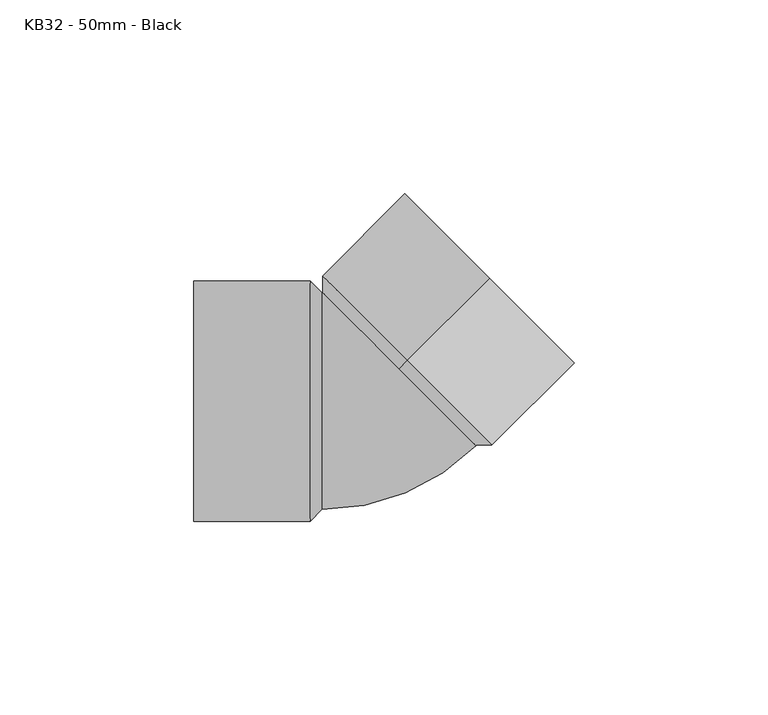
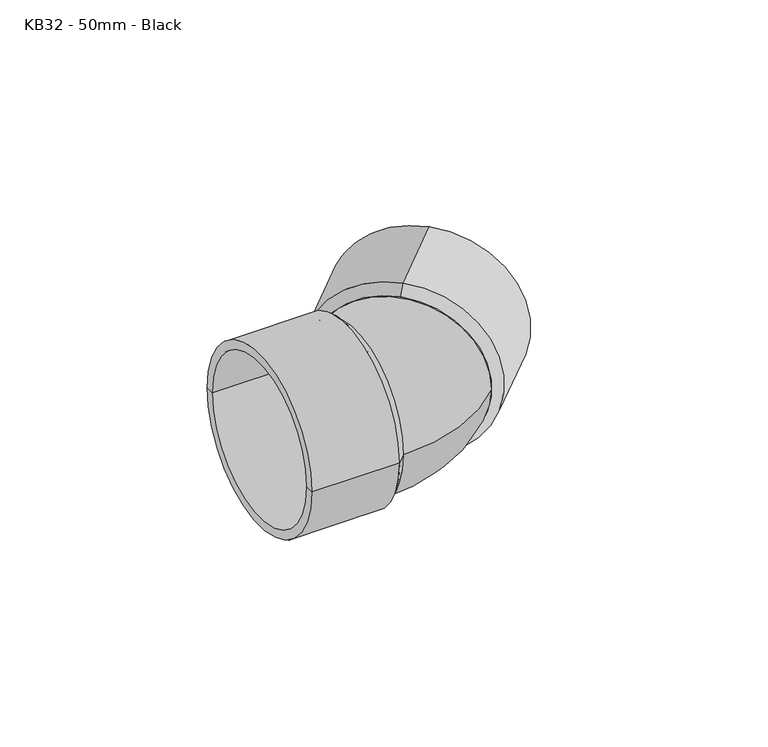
"""IFC4 building model written with IfcOpenShell, lengths in millimetres: pipe fitting geometry, MarleyPlumbingAndDrainage_PipeFitting_SolventBend45 : KB32 - 50mm - Black."""

from ifc_helpers import new_model, si_unit, point, frame, origin, place, context, project, spatial, polyline, circle_curve, ellipse_curve, trimmed, source, transform, mapped, element, save
from ifc_brep_helpers import plane_surface, cylinder_surface, revolved_surface, advanced_brep


def kb32_50mm_black_69a5e7c4(model_context):
    return source(origin(), model_context, "Body", "AdvancedBrep", [
        advanced_brep(
        [(16.8566138, 31.6234019, -28.0), (16.8566138, 31.6234019, 28.0), (16.8566138, 31.6234019, 31.0), (16.8566138, 31.6234019, -31.0), (-4.3565896, 10.4101984, -28.0), (-4.3565896, 10.4101984, 28.0), (-4.3565896, 10.4101984, 0.0), (-6.47791, 8.2888781, -28.0), (-6.47791, 8.2888781, 28.0), (-6.47791, 8.2888781, 0.0), (-4.3565896, 10.4101984, -31.0), (-4.3565896, 10.4101984, 31.0)],
        [
            (0, 1, circle_curve(frame((16.8566138, 31.6234019, 0.0), z_axis=(-0.7071067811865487, -0.7071067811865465, 0.0), x_axis=(0.0, 0.0, 1.0)), 28.0)),
            (1, 2),
            (2, 3, circle_curve(frame((16.8566138, 31.6234019, 0.0), z_axis=(0.7071067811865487, 0.7071067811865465, 0.0), x_axis=(0.0, 0.0, 1.0)), 31.0)),
            (3, 0),
            (1, 0, circle_curve(frame((16.8566138, 31.6234019, 0.0), z_axis=(-0.7071067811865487, -0.7071067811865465, 0.0), x_axis=(0.0, 0.0, 1.0)), 28.0)),
            (3, 2, circle_curve(frame((16.8566138, 31.6234019, 0.0), z_axis=(0.7071067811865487, 0.7071067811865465, 0.0), x_axis=(0.0, 0.0, 1.0)), 31.0)),
            (4, 5, circle_curve(frame((-4.3565896, 10.4101984, 0.0), z_axis=(-0.7071067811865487, -0.7071067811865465, 0.0), x_axis=(0.0, 0.0, 1.0)), 28.0)),
            (5, 1),
            (0, 4),
            (5, 4, circle_curve(frame((-4.3565896, 10.4101984, 0.0), z_axis=(-0.7071067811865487, -0.7071067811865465, 0.0), x_axis=(0.0, 0.0, 1.0)), 28.0)),
            (6, 5),
            (4, 6),
            (7, 8, circle_curve(frame((-6.47791, 8.2888781, 0.0), z_axis=(-0.7071067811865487, -0.7071067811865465, 0.0), x_axis=(0.0, 0.0, 1.0)), 28.0)),
            (8, 9),
            (9, 7),
            (8, 7, circle_curve(frame((-6.47791, 8.2888781, 0.0), z_axis=(-0.7071067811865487, -0.7071067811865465, 0.0), x_axis=(0.0, 0.0, 1.0)), 28.0)),
            (10, 11, circle_curve(frame((-4.3565896, 10.4101984, 0.0), z_axis=(-0.7071067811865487, -0.7071067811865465, 0.0), x_axis=(0.0, 0.0, 1.0)), 31.0)),
            (11, 8),
            (7, 10),
            (11, 10, circle_curve(frame((-4.3565896, 10.4101984, 0.0), z_axis=(-0.7071067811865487, -0.7071067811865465, 0.0), x_axis=(0.0, 0.0, 1.0)), 31.0)),
            (2, 11),
            (10, 3),
        ],
        [
            plane_surface(frame((16.8566138, 31.6234019, 0.0), z_axis=(0.7071067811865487, 0.7071067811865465, 0.0), x_axis=(0.0, 0.0, 1.0))),
            revolved_surface(polyline([(16.85661379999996, 31.62340190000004, 28.0), (-4.356589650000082, 10.410198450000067, 28.0)]), (43.7146789, 58.481467, 0.0), (0.7071067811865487, 0.7071067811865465, 0.0)),
            plane_surface(frame((-4.3565896, 10.4101984, 0.0), z_axis=(0.7071067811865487, 0.7071067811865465, 0.0), x_axis=(0.0, 0.0, 1.0))),
            plane_surface(frame((-6.47791, 8.2888781, 0.0), z_axis=(-0.7071067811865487, -0.7071067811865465, 0.0), x_axis=(0.0, 0.0, 1.0))),
            revolved_surface(polyline([(-6.47791, 8.2888781, 28.0), (-4.3565896, 10.4101984, 31.0)]), (43.7146789, 58.481467, 0.0), (0.7071067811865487, 0.7071067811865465, 0.0)),
            cylinder_surface(frame((43.7146789, 58.481467, 0.0), z_axis=(0.7071067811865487, 0.7071067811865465, 0.0), x_axis=(0.0, 0.0, 1.0)), 31.0),
        ],
        [
            (0, [[1, 2, 3, 4]]),
            (0, [[5, -4, 6, -2]]),
            (1, [[7, 8, -1, 9]]),
            (1, [[10, -9, -5, -8]]),
            (2, [[11, -7, 12]]),
            (2, [[-12, -10, -11]]),
            (3, [[13, 14, 15]]),
            (3, [[16, -15, -14]]),
            (4, [[17, 18, -13, 19]]),
            (4, [[20, -19, -16, -18]]),
            (5, [[-3, 21, -17, 22]]),
            (5, [[-6, -22, -20, -21]]),
        ],
    ),
        advanced_brep(
        [(-59.4890319, 28.0, 0.0), (-59.4890319, -28.0, 0.0), (-59.4890319, -31.0, 0.0), (-59.4890319, 31.0, 0.0), (-29.4890319, 28.0, 0.0), (-29.4890319, -28.0, 0.0), (-29.4890319, 0.0, 0.0), (-26.4890319, 28.0, 0.0), (-26.4890319, -28.0, 0.0), (-26.4890319, 0.0, 0.0), (-29.4890319, 31.0, 0.0), (-29.4890319, -31.0, 0.0)],
        [
            (0, 1, circle_curve(frame((-59.4890319, 0.0, 0.0), z_axis=(1.0, 0.0, 0.0), x_axis=(0.0, -1.0, 0.0)), 28.0)),
            (1, 2),
            (2, 3, circle_curve(frame((-59.4890319, 0.0, 0.0), z_axis=(-1.0, 0.0, 0.0), x_axis=(0.0, -1.0, 0.0)), 31.0)),
            (3, 0),
            (1, 0, circle_curve(frame((-59.4890319, 0.0, 0.0), z_axis=(1.0, 0.0, 0.0), x_axis=(0.0, -1.0, 0.0)), 28.0)),
            (3, 2, circle_curve(frame((-59.4890319, 0.0, 0.0), z_axis=(-1.0, 0.0, 0.0), x_axis=(0.0, -1.0, 0.0)), 31.0)),
            (4, 5, circle_curve(frame((-29.4890319, 0.0, 0.0), z_axis=(1.0, 0.0, 0.0), x_axis=(0.0, -1.0, 0.0)), 28.0)),
            (5, 1),
            (0, 4),
            (5, 4, circle_curve(frame((-29.4890319, 0.0, 0.0), z_axis=(1.0, 0.0, 0.0), x_axis=(0.0, -1.0, 0.0)), 28.0)),
            (6, 5),
            (4, 6),
            (7, 8, circle_curve(frame((-26.4890319, 0.0, 0.0), z_axis=(1.0, 0.0, 0.0), x_axis=(0.0, -1.0, 0.0)), 28.0)),
            (8, 9),
            (9, 7),
            (8, 7, circle_curve(frame((-26.4890319, 0.0, 0.0), z_axis=(1.0, 0.0, 0.0), x_axis=(0.0, -1.0, 0.0)), 28.0)),
            (10, 11, circle_curve(frame((-29.4890319, 0.0, 0.0), z_axis=(1.0, 0.0, 0.0), x_axis=(0.0, -1.0, 0.0)), 31.0)),
            (11, 8),
            (7, 10),
            (11, 10, circle_curve(frame((-29.4890319, 0.0, 0.0), z_axis=(1.0, 0.0, 0.0), x_axis=(0.0, -1.0, 0.0)), 31.0)),
            (2, 11),
            (10, 3),
        ],
        [
            plane_surface(frame((-59.4890319, 0.0, 0.0), z_axis=(-1.0, 0.0, 0.0), x_axis=(0.0, -1.0, 0.0))),
            revolved_surface(polyline([(-59.4890319, -28.0, 0.0), (-29.4890319, -28.0, 0.0)]), (-97.4720719, 0.0, 0.0), (-1.0, 0.0, 0.0)),
            plane_surface(frame((-29.4890319, 0.0, 0.0), z_axis=(-1.0, 0.0, 0.0), x_axis=(0.0, -1.0, 0.0))),
            plane_surface(frame((-26.4890319, 0.0, 0.0), z_axis=(1.0, 0.0, 0.0), x_axis=(0.0, -1.0, 0.0))),
            revolved_surface(polyline([(-26.4890319, -28.0, 0.0), (-29.4890319, -31.0, 0.0)]), (-97.4720719, 0.0, 0.0), (-1.0, 0.0, 0.0)),
            cylinder_surface(frame((-97.4720719, 0.0, 0.0), z_axis=(-1.0, 0.0, 0.0), x_axis=(0.0, -1.0, 0.0)), 31.0),
        ],
        [
            (0, [[1, 2, 3, 4]]),
            (0, [[5, -4, 6, -2]]),
            (1, [[7, 8, -1, 9]]),
            (1, [[10, -9, -5, -8]]),
            (2, [[11, -7, 12]]),
            (2, [[-12, -10, -11]]),
            (3, [[13, 14, 15]]),
            (3, [[16, -15, -14]]),
            (4, [[17, 18, -13, 19]]),
            (4, [[20, -19, -16, -18]]),
            (5, [[-3, 21, -17, 22]]),
            (5, [[-6, -22, -20, -21]]),
        ],
    ),
        advanced_brep(
        [(-26.4890319, -28.0, 0.0), (-26.4890319, 28.0, 0.0), (13.3210799, -11.5101118, 0.0), (-26.2768999, 28.087868, 0.0)],
        [
            (0, 1, circle_curve(frame((-26.4890319, 0.0, 0.0), z_axis=(-1.0, 0.0, 0.0), x_axis=(0.0, 1.0, 0.0)), 28.0)),
            (1, 0, circle_curve(frame((-26.4890319, 0.0, 0.0), z_axis=(-1.0, 0.0, 0.0), x_axis=(0.0, 1.0, 0.0)), 28.0)),
            (2, 3, circle_curve(frame((-6.47791, 8.2888781, 0.0), z_axis=(0.707106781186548, 0.707106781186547, 0.0), x_axis=(-0.707106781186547, 0.707106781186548, 0.0)), 28.0)),
            (3, 2, circle_curve(frame((-6.47791, 8.2888781, 0.0), z_axis=(0.707106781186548, 0.707106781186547, 0.0), x_axis=(-0.707106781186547, 0.707106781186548, 0.0)), 28.0)),
            (3, 1, circle_curve(frame((-26.4890319, 28.3, 0.0), z_axis=(0.0, 0.0, -1.0), x_axis=(0.0, -1.0, 0.0)), 0.3)),
            (0, 2, circle_curve(frame((-26.4890319, 28.3, 0.0), z_axis=(0.0, 0.0, 1.0), x_axis=(0.0, -1.0, 0.0)), 56.3)),
        ],
        [
            plane_surface(frame((-26.4890319, 0.0, 0.0), z_axis=(-1.0, 0.0, 0.0), x_axis=(0.0, 0.0, 1.0))),
            plane_surface(frame((-6.47791, 8.2888781, 0.0), z_axis=(0.7071067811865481, 0.707106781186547, 0.0), x_axis=(0.0, 0.0, 1.0))),
            revolved_surface(trimmed(ellipse_curve(frame((-26.4890319, 0.0, 0.0), z_axis=(-1.0, 0.0, 0.0), x_axis=(0.0, 1.0, 0.0)), 28.0, 28.0), [point((-26.4890319, -28.0, 0.0))], [point((-26.4890319, 28.0, 0.0))], True, "CARTESIAN"), (-26.4890319, 28.3, 0.0), (0.0, 0.0, 1.0)),
            revolved_surface(trimmed(ellipse_curve(frame((-26.4890319, 0.0, 0.0), z_axis=(-1.0, 0.0, 0.0), x_axis=(0.0, 1.0, 0.0)), 28.0, 28.0), [point((-26.4890319, 28.0, 0.0))], [point((-26.4890319, -28.0, 0.0))], True, "CARTESIAN"), (-26.4890319, 28.3, 0.0), (0.0, 0.0, 1.0)),
        ],
        [
            (0, [[1, 2]]),
            (1, [[3, 4]]),
            (2, [[5, -1, 6, -4]]),
            (3, [[-6, -2, -5, -3]]),
        ],
    ),
    ])


if __name__ == "__main__":
    model = new_model("IFC4")
    model_context = context("Model", 3, world=origin())
    ifc_project = project(units=[si_unit("LENGTHUNIT", "METRE", prefix="MILLI")], contexts=[model_context])
    site = spatial("IfcSite", under=ifc_project)
    building = spatial("IfcBuilding", under=site)
    placement = place(None, origin())
    kb32_50mm_black_shape = kb32_50mm_black_69a5e7c4(model_context)
    element("IfcPipeFitting", 1, ObjectType="MarleyPlumbingAndDrainage_PipeFitting_SolventBend45 : KB32 - 50mm - Black", at=placement, inside=building, context=model_context, shape_type="MappedRepresentation", body=[
        mapped(kb32_50mm_black_shape, transform((0.0, 0.0, 0.0), x_axis=(1.0, 0.0, 0.0), y_axis=(0.0, 1.0, 0.0), z_axis=(0.0, 0.0, 1.0))),
    ])
    save(model, "model.ifc")
